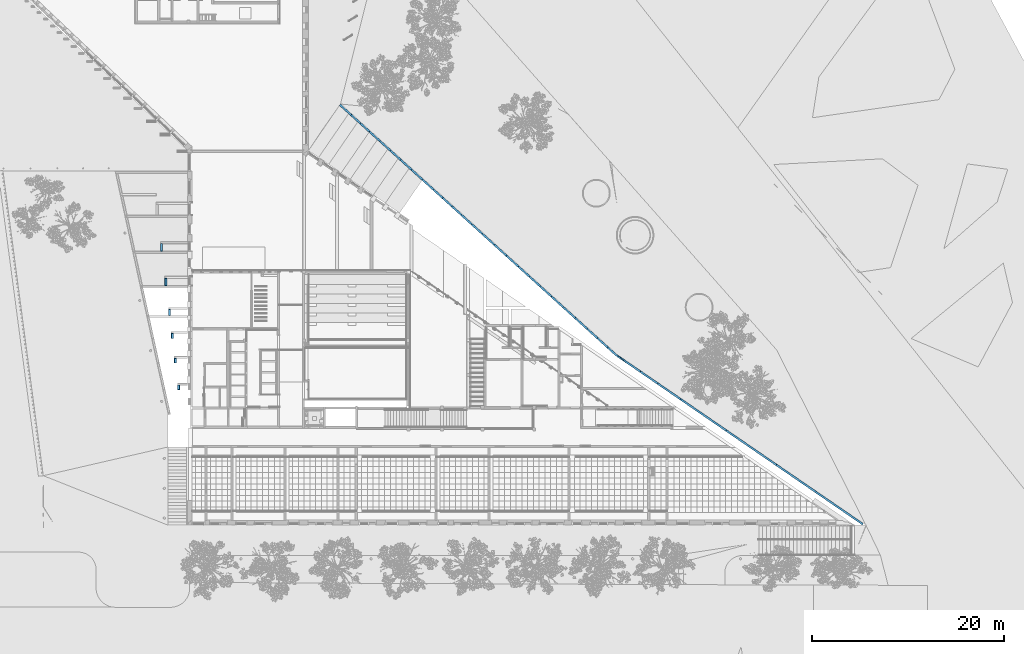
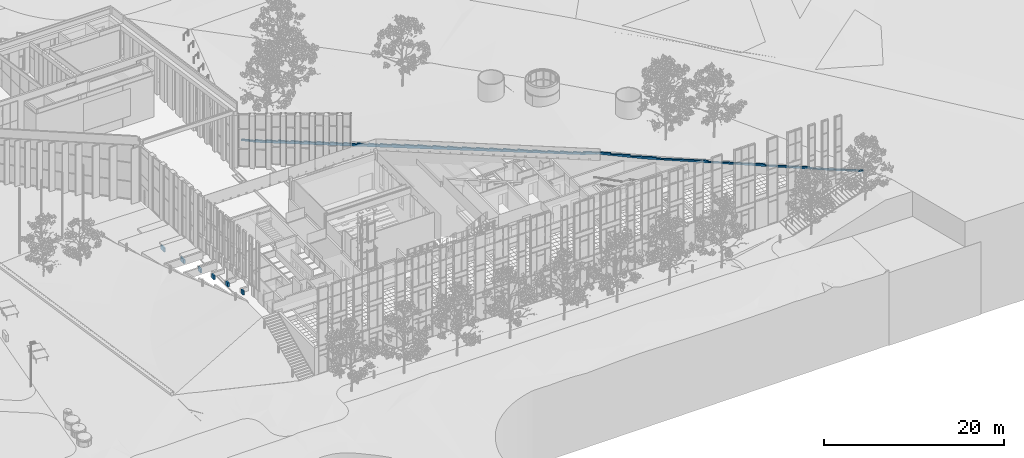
# One storey, part 142 of 246: 8 stairs.
"""IFC2X3 building model written with IfcOpenShell, lengths in millimetres."""

from ifc_helpers import new_model, entity, si_unit, converted_unit, derived_unit, money_unit, direction, frame, origin_with_axes, place, context, subcontext, project, spatial, faceted_brep, material, element, save


model = new_model("IFC2X3")

# Units and contexts
model_context = context("Model", 3, precision=0.01, world=origin_with_axes(), true_north=direction((0.0, 1.0)))
body_context = subcontext(model_context, "Body", "Model", "MODEL_VIEW")
ifc_project = project(units=[si_unit("LENGTHUNIT", "METRE", prefix="MILLI"), si_unit("AREAUNIT", "SQUARE_METRE"), si_unit("VOLUMEUNIT", "CUBIC_METRE"), converted_unit("PLANEANGLEUNIT", "DEGREE", entity("IfcPlaneAngleMeasure", 0.0174532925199), si_unit("PLANEANGLEUNIT", "RADIAN"), dimensions=[0, 0, 0, 0, 0, 0, 0]), si_unit("SOLIDANGLEUNIT", "STERADIAN"), money_unit("EUR"), converted_unit("TIMEUNIT", "Year", entity("IfcTimeMeasure", 31556926.0), si_unit("TIMEUNIT", "SECOND"), dimensions=[0, 0, 1, 0, 0, 0, 0]), si_unit("MASSUNIT", "GRAM", prefix="KILO"), si_unit("THERMODYNAMICTEMPERATUREUNIT", "DEGREE_CELSIUS"), si_unit("LUMINOUSINTENSITYUNIT", "LUMEN"), si_unit("ENERGYUNIT", "JOULE", prefix="MEGA"), derived_unit("THERMALCONDUCTANCEUNIT", [(si_unit("POWERUNIT", "WATT"), 1), (si_unit("LENGTHUNIT", "METRE"), -1), (si_unit("THERMODYNAMICTEMPERATUREUNIT", "KELVIN"), -1)]), derived_unit("SPECIFICHEATCAPACITYUNIT", [(si_unit("ENERGYUNIT", "JOULE"), 1), (si_unit("MASSUNIT", "GRAM", prefix="KILO"), -1), (si_unit("THERMODYNAMICTEMPERATUREUNIT", "KELVIN"), -1)]), derived_unit("MASSDENSITYUNIT", [(si_unit("MASSUNIT", "GRAM", prefix="KILO"), 1), (si_unit("VOLUMEUNIT", "CUBIC_METRE"), -1)])], contexts=[model_context])

# Site, building, storey
site_placement = place(None, origin_with_axes())
site = spatial("IfcSite", under=ifc_project, at=site_placement, Name="L.Koidula tn 11b", CompositionType="ELEMENT")
building_placement = place(site_placement, origin_with_axes())
building = spatial("IfcBuilding", under=site, at=building_placement, Name="Rakvere Riigigümnaasium", CompositionType="ELEMENT")
storey_placement = place(building_placement, origin_with_axes())
storey = spatial("IfcBuildingStorey", under=building, at=storey_placement, Name="1.korrus 0,00", CompositionType="ELEMENT", Elevation=0.0)

# Stairs
ifc_material_1 = material(Name="Betoon")
stair_1_placement = place(storey_placement, frame((32200.3097596, 34530.3410804, 349.0), z_axis=(0.0, 0.0, 1.0), x_axis=(-1.44049245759e-07, -1.0, 0.0)))
element("IfcStair", 1, at=stair_1_placement, inside=storey, material=ifc_material_1, Name="Astmestik-1", ShapeType="NOTDEFINED", context=body_context, shape_type="Brep", body=[
    faceted_brep([(199.99997119, 200.0, 544.0), (200.0, 0.0, 544.0), (970.04236267, 0.0, 544.0), (970.04236267, 200.0, 544.0), (199.99997119, 200.0, 0.0), (200.0, 0.0, 0.0), (970.04236267, 0.0, 0.0), (970.04236267, 200.0, 0.0)], [[[0, 1, 2, 3]], [[4, 5, 1, 0]], [[1, 5, 6, 2]], [[7, 3, 2, 6]], [[4, 0, 3, 7]], [[5, 4, 7, 6]]]),
])
stair_2_placement = place(storey_placement, frame((32645.1338806, 30930.4556653, 814.0), z_axis=(0.0, 0.0, 1.0), x_axis=(-1.44049244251e-07, -1.0, 0.0)))
element("IfcStair", 2, at=stair_2_placement, inside=storey, material=ifc_material_1, Name="Astmestik-1", ShapeType="NOTDEFINED", context=body_context, shape_type="Brep", body=[
    faceted_brep([(200.0, 200.0, 544.0), (200.0, 0.0, 544.0), (970.000001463, 0.0, 544.0), (970.000001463, 200.0, 544.0), (200.0, 200.0, 0.0), (200.0, 0.0, 0.0), (970.000001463, 0.0, 0.0), (970.000001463, 200.0, 0.0)], [[[0, 1, 2, 3]], [[4, 5, 1, 0]], [[1, 5, 6, 2]], [[7, 3, 2, 6]], [[4, 0, 3, 7]], [[5, 4, 7, 6]]]),
])
stair_3_placement = place(storey_placement, frame((33028.1935656, 27680.4556101, 1279.0), z_axis=(0.0, 0.0, 1.0), x_axis=(-1.44049242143e-07, -1.0, 0.0)))
element("IfcStair", 3, at=stair_3_placement, inside=storey, material=ifc_material_1, Name="Astmestik-1", ShapeType="NOTDEFINED", context=body_context, shape_type="Brep", body=[
    faceted_brep([(200.0, 200.0, 544.0), (200.0, 0.0, 544.0), (819.999881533, 0.0, 544.0), (819.999881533, 200.0, 544.0), (200.0, 200.0, 0.0), (200.0, 0.0, 0.0), (819.999881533, 0.0, 0.0), (819.999881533, 200.0, 0.0)], [[[0, 1, 2, 3]], [[4, 5, 1, 0]], [[1, 5, 6, 2]], [[7, 3, 2, 6]], [[4, 0, 3, 7]], [[5, 4, 7, 6]]]),
])
stair_4_placement = place(storey_placement, frame((33324.7559139, 25180.4555674, 1744.0), z_axis=(0.0, 0.0, 1.0), x_axis=(-1.44049238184e-07, -1.0, 0.0)))
element("IfcStair", 4, at=stair_4_placement, inside=storey, material=ifc_material_1, Name="Astmestik-1", ShapeType="NOTDEFINED", context=body_context, shape_type="Brep", body=[
    faceted_brep([(200.0, 200.0, 544.0), (200.0, 0.0, 544.0), (720.00004209, 0.0, 544.0), (720.00004209, 200.0, 544.0), (200.0, 200.0, 0.0), (200.0, 0.0, 0.0), (720.00004209, 0.0, 0.0), (720.00004209, 200.0, 0.0)], [[[0, 1, 2, 3]], [[4, 5, 1, 0]], [[1, 5, 6, 2]], [[7, 3, 2, 6]], [[4, 0, 3, 7]], [[5, 4, 7, 6]]]),
])
stair_5_placement = place(storey_placement, frame((33639.8534089, 22580.4555253, 2209.0), z_axis=(0.0, 0.0, 1.0), x_axis=(-1.44049251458e-07, -1.0, 0.0)))
element("IfcStair", 5, at=stair_5_placement, inside=storey, material=ifc_material_1, Name="Astmestik-1", ShapeType="NOTDEFINED", context=body_context, shape_type="Brep", body=[
    faceted_brep([(200.0, 200.0, 544.0), (200.0, 0.0, 544.0), (670.000000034, 0.0, 544.0), (670.000000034, 200.0, 544.0), (200.0, 200.0, 0.0), (200.0, 0.0, 0.0), (670.000000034, 0.0, 0.0), (670.000000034, 200.0, 0.0)], [[[0, 1, 2, 3]], [[4, 5, 1, 0]], [[1, 5, 6, 2]], [[7, 3, 2, 6]], [[4, 0, 3, 7]], [[5, 4, 7, 6]]]),
])
stair_6_placement = place(storey_placement, frame((33985.8428152, 19780.4555253, 2674.0), z_axis=(0.0, 0.0, 1.0), x_axis=(-1.44049254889e-07, -1.0, 0.0)))
element("IfcStair", 6, at=stair_6_placement, inside=storey, material=ifc_material_1, Name="Astmestik-1", ShapeType="NOTDEFINED", context=body_context, shape_type="Brep", body=[
    faceted_brep([(200.0, 200.0, 544.0), (200.0, 0.0, 544.0), (669.999934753, 0.0, 544.0), (669.999934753, 200.0, 544.0), (200.0, 200.0, 0.0), (200.0, 0.0, 0.0), (669.999934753, 0.0, 0.0), (669.999934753, 200.0, 0.0)], [[[0, 1, 2, 3]], [[4, 5, 1, 0]], [[1, 5, 6, 2]], [[7, 3, 2, 6]], [[4, 0, 3, 7]], [[5, 4, 7, 6]]]),
])
ifc_material_2 = material(Name="Betoon element / plaat")
stair_7_placement = place(storey_placement, frame((50974.7853935, 48875.5568445, -244.782720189), z_axis=(0.0, 0.0, 1.0), x_axis=(0.74101695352, -0.671486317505, 0.0)))
element("IfcStair", 7, at=stair_7_placement, inside=storey, material=ifc_material_2, Name="Astmestik-2", ShapeType="NOTDEFINED", context=body_context, shape_type="Brep", body=[
    faceted_brep([(38798.4200581, -200.0, 3824.98922802), (40270.578355, 0.0, 3976.7025804), (40270.578355, 0.0, 4229.9863885), (39109.0895483, -157.794010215, 4229.9863885), (39109.0895483, -157.794010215, 4074.9863885), (38798.4200581, -200.0, 4074.9863885), (1653.07490181, 0.0, 0.0), (1654.19522987, -200.0, 0.0), (0.0, 0.0, 0.0), (0.0, 0.0, 199.986388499), (1557.04763156, 0.0, 199.986388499), (1557.04763156, 0.0, 354.986388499), (2844.01167681, 0.0, 354.986388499), (2844.01167681, 0.0, 509.986388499), (4131.04125776, 0.0, 509.986388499), (4131.04125776, 0.0, 664.986388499), (5597.57488525, 0.0, 664.986388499), (5597.57488525, 0.0, 819.986388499), (7064.17404844, 0.0, 819.986388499), (7064.17404844, 0.0, 974.986388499), (8530.08339121, 0.0, 974.986388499), (8530.08339121, 0.0, 1129.9863885), (10058.6826791, 0.0, 1129.9863885), (10058.6826791, 0.0, 1284.9863885), (11586.7376725, 0.0, 1284.9863885), (11586.7376725, 0.0, 1439.9863885), (13116.3848857, 0.0, 1439.9863885), (13116.3848857, 0.0, 1594.9863885), (14428.4713052, 0.0, 1594.9863885), (14428.4713052, 0.0, 1749.9863885), (15740.6650018, 0.0, 1749.9863885), (15740.6650018, 0.0, 1904.9863885), (17062.6313667, 0.0, 1904.9863885), (17062.6313667, 0.0, 2059.9863885), (18515.8452814, 0.0, 2059.9863885), (18515.8452814, 0.0, 2214.9863885), (19984.2251765, 0.0, 2214.9863885), (19984.2251765, 0.0, 2369.9863885), (21679.2213816, 0.0, 2369.9863885), (21679.2213816, 0.0, 2524.9863885), (23374.9057795, 0.0, 2524.9863885), (23374.9057795, 0.0, 2679.9863885), (25075.5687959, 0.0, 2679.9863885), (25075.5687959, 0.0, 2834.9863885), (26609.0954024, 0.0, 2834.9863885), (26609.0954024, 0.0, 2989.9863885), (28143.3098934, 0.0, 2989.9863885), (28143.3098934, 0.0, 3144.9863885), (29727.9165919, 0.0, 3144.9863885), (29727.9165919, 0.0, 3299.9863885), (31367.4075178, 0.0, 3299.9863885), (31367.4075178, 0.0, 3454.9863885), (33058.0459854, 0.0, 3454.9863885), (33058.0459854, 0.0, 3609.9863885), (34748.6171471, 0.0, 3609.9863885), (34748.6171471, 0.0, 3764.9863885), (36195.1516338, 0.0, 3764.9863885), (36195.1516338, 0.0, 3919.9863885), (37641.5670759, 0.0, 3919.9863885), (37641.5670759, 0.0, 4074.9863885), (39087.6524928, 0.0, 4074.9863885), (39087.6524928, 0.0, 4229.9863885), (37668.7380128, -200.0, 4074.9863885), (37668.7380128, -200.0, 3919.9863885), (36222.3225707, -200.0, 3919.9863885), (36222.3225707, -200.0, 3764.9863885), (34775.788084, -200.0, 3764.9863885), (34775.788084, -200.0, 3609.9863885), (33085.2169223, -200.0, 3609.9863885), (33085.2169223, -200.0, 3454.9863885), (31394.5784547, -200.0, 3454.9863885), (31394.5784547, -200.0, 3299.9863885), (29755.0875288, -200.0, 3299.9863885), (29755.0875288, -200.0, 3144.9863885), (28170.4808303, -200.0, 3144.9863885), (28170.4808303, -200.0, 2989.9863885), (26636.2663394, -200.0, 2989.9863885), (26636.2663394, -200.0, 2834.9863885), (25102.7397328, -200.0, 2834.9863885), (25102.7397328, -200.0, 2679.9863885), (23402.0767164, -200.0, 2679.9863885), (23402.0767164, -200.0, 2524.9863885), (21706.3923185, -200.0, 2524.9863885), (21706.3923185, -200.0, 2369.9863885), (20011.3961134, -200.0, 2369.9863885), (20011.3961134, -200.0, 2214.9863885), (18543.0162183, -200.0, 2214.9863885), (18543.0162183, -200.0, 2059.9863885), (17089.8023036, -200.0, 2059.9863885), (17089.8023036, -200.0, 1904.9863885), (15767.8359387, -200.0, 1904.9863885), (15767.8359387, -200.0, 1749.9863885), (14455.6422421, -200.0, 1749.9863885), (14455.6422421, -200.0, 1594.9863885), (13143.5558226, -200.0, 1594.9863885), (13143.5558226, -200.0, 1439.9863885), (11613.9086094, -200.0, 1439.9863885), (11613.9086094, -200.0, 1284.9863885), (10085.8536161, -200.0, 1284.9863885), (10085.8536161, -200.0, 1129.9863885), (8557.25432813, -200.0, 1129.9863885), (8557.25432813, -200.0, 974.986388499), (7091.34498536, -200.0, 974.986388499), (7091.34498536, -200.0, 819.986388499), (5624.74582217, -200.0, 819.986388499), (5624.74582217, -200.0, 664.986388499), (4158.21219468, -200.0, 664.986388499), (4158.21219468, -200.0, 509.986388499), (2871.18261374, -200.0, 509.986388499), (2871.18261374, -200.0, 354.986388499), (1584.21856849, -200.0, 354.986388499), (1584.21856849, -200.0, 199.986388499), (0.0, -200.0, 199.986388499), (0.0, -200.0, 0.0)], [[[0, 1, 2, 3, 4, 5]], [[6, 1, 0, 7]], [[1, 6, 8, 9, 10, 11, 12, 13, 14, 15, 16, 17, 18, 19, 20, 21, 22, 23, 24, 25, 26, 27, 28, 29, 30, 31, 32, 33, 34, 35, 36, 37, 38, 39, 40, 41, 42, 43, 44, 45, 46, 47, 48, 49, 50, 51, 52, 53, 54, 55, 56, 57, 58, 59, 60, 61, 2]], [[61, 3, 2]], [[60, 4, 3, 61]], [[62, 5, 4, 60, 59]], [[7, 0, 5, 62, 63, 64, 65, 66, 67, 68, 69, 70, 71, 72, 73, 74, 75, 76, 77, 78, 79, 80, 81, 82, 83, 84, 85, 86, 87, 88, 89, 90, 91, 92, 93, 94, 95, 96, 97, 98, 99, 100, 101, 102, 103, 104, 105, 106, 107, 108, 109, 110, 111, 112, 113]], [[6, 7, 113, 8]], [[8, 113, 112, 9]], [[112, 111, 10, 9]], [[10, 111, 110, 11]], [[109, 12, 11, 110]], [[13, 12, 109, 108]], [[108, 107, 14, 13]], [[106, 15, 14, 107]], [[15, 106, 105, 16]], [[105, 104, 17, 16]], [[18, 17, 104, 103]], [[18, 103, 102, 19]], [[101, 20, 19, 102]], [[101, 100, 21, 20]], [[99, 22, 21, 100]], [[99, 98, 23, 22]], [[24, 23, 98, 97]], [[96, 25, 24, 97]], [[25, 96, 95, 26]], [[26, 95, 94, 27]], [[94, 93, 28, 27]], [[93, 92, 29, 28]], [[91, 30, 29, 92]], [[90, 31, 30, 91]], [[32, 31, 90, 89]], [[33, 32, 89, 88]], [[33, 88, 87, 34]], [[34, 87, 86, 35]], [[86, 85, 36, 35]], [[85, 84, 37, 36]], [[83, 38, 37, 84]], [[39, 38, 83, 82]], [[39, 82, 81, 40]], [[41, 40, 81, 80]], [[80, 79, 42, 41]], [[42, 79, 78, 43]], [[78, 77, 44, 43]], [[77, 76, 45, 44]], [[75, 46, 45, 76]], [[74, 47, 46, 75]], [[48, 47, 74, 73]], [[49, 48, 73, 72]], [[49, 72, 71, 50]], [[50, 71, 70, 51]], [[70, 69, 52, 51]], [[69, 68, 53, 52]], [[67, 54, 53, 68]], [[66, 55, 54, 67]], [[56, 55, 66, 65]], [[65, 64, 57, 56]], [[63, 58, 57, 64]], [[63, 62, 59, 58]]]),
])
stair_8_placement = place(storey_placement, frame((79715.051371, 22832.0294007, 2954.18132827), z_axis=(0.0, 0.0, 1.0), x_axis=(0.824666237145, -0.565619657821, 0.0)))
element("IfcStair", 8, at=stair_8_placement, inside=storey, material=ifc_material_2, Name="Astmestik-2", ShapeType="NOTDEFINED", context=body_context, shape_type="Brep", body=[
    faceted_brep([(6904.93686367, -200.0, 429.350056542), (6904.93686233, 0.0, 429.350056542), (27284.6497356, 0.0, 0.0), (27284.649737, -200.0, 0.0), (1742.07075093, 0.0, 791.254713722), (1716.03989764, -200.0, 793.079414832), (1742.07075093, 0.0, 802.642988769), (0.0, 0.0, 624.747954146), (0.0, 0.0, 1031.02234004), (3099.99502467, 0.0, 1031.02234004), (3099.99502467, 0.0, 876.022340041), (5299.99519812, 0.0, 876.022340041), (5299.99519812, 0.0, 721.022340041), (8199.99519812, 0.0, 721.022340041), (8199.99519812, 0.0, 566.022340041), (13955.4328863, 0.0, 566.022340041), (13955.4328863, 0.0, 441.022340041), (20275.2273616, 0.0, 441.022340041), (20275.2273616, 0.0, 316.022243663), (25275.2273616, 0.0, 316.022243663), (25275.2273616, 0.0, 191.022243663), (31219.3015898, 0.0, 191.022243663), (31219.3015898, 0.0, 0.0), (31219.3015898, -200.0, 0.0), (31219.3015898, -200.0, 191.022243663), (25275.2273084, -200.0, 191.022243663), (25275.2273084, -200.0, 316.022243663), (20275.2273084, -200.0, 316.022243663), (20275.2273084, -200.0, 441.022340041), (13955.4328331, -200.0, 441.022340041), (13955.4328331, -200.0, 566.022340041), (8199.99514492, -200.0, 566.022340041), (8199.99514492, -200.0, 721.022340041), (5299.99514492, -200.0, 721.022340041), (5299.99514492, -200.0, 876.022340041), (3099.99497146, -200.0, 876.022340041), (3099.99497146, -200.0, 1031.02234004), (1472.15829696, -200.0, 1031.02234004), (1472.15829696, -200.0, 777.738531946), (1716.03989764, -200.0, 802.642988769)], [[[0, 1, 2, 3]], [[4, 1, 0, 5]], [[1, 4, 6, 7, 8, 9, 10, 11, 12, 13, 14, 15, 16, 17, 18, 19, 20, 21, 22, 2]], [[22, 23, 3, 2]], [[5, 0, 3, 23, 24, 25, 26, 27, 28, 29, 30, 31, 32, 33, 34, 35, 36, 37, 38, 39]], [[4, 5, 39, 6]], [[38, 7, 6, 39]], [[8, 7, 38, 37]], [[9, 8, 37, 36]], [[36, 35, 10, 9]], [[11, 10, 35, 34]], [[34, 33, 12, 11]], [[32, 13, 12, 33]], [[13, 32, 31, 14]], [[14, 31, 30, 15]], [[30, 29, 16, 15]], [[29, 28, 17, 16]], [[27, 18, 17, 28]], [[26, 19, 18, 27]], [[20, 19, 26, 25]], [[24, 21, 20, 25]], [[21, 24, 23, 22]]]),
])

save(model, "model.ifc")
